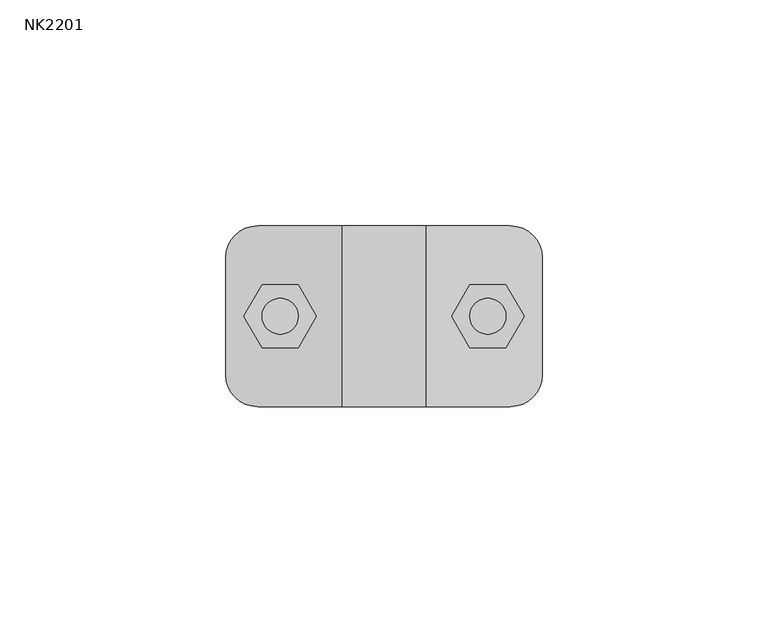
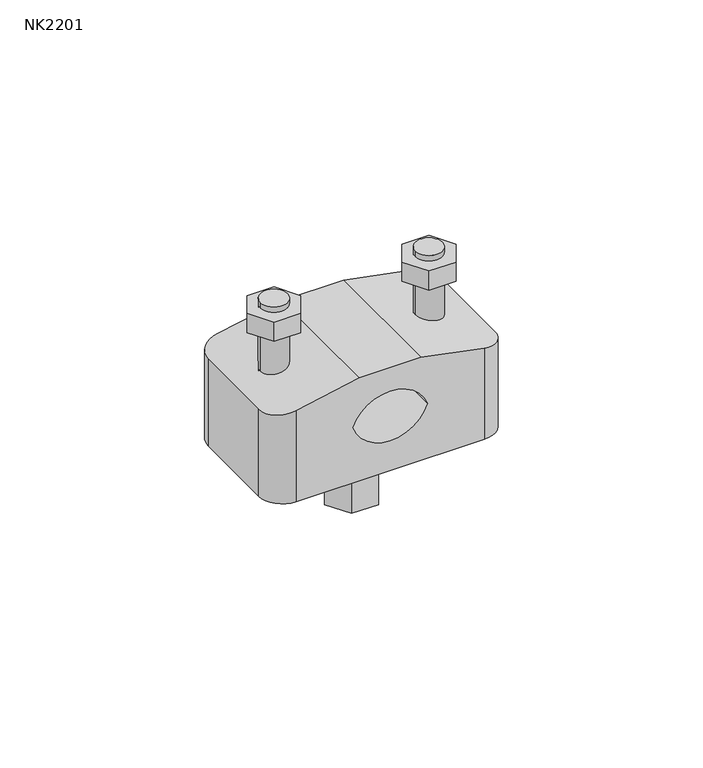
"""IFC4 building model written with IfcOpenShell, lengths in millimetres: proxy geometry, КНС_ДержательУниверсальныйИзолированногоТокоотвода_DKC : NK2201."""

from ifc_helpers import new_model, si_unit, point, frame, frame_2d, origin, origin_with_axes, place, context, project, spatial, polyline, circle_curve, ellipse_curve, trimmed, segment, composite_curve, outline, extrude, source, transform, mapped, element, save
from ifc_brep_helpers import plane_surface, cylinder_surface, revolved_surface, advanced_brep


def nk2201_a44ecc95(model_context):
    return source(origin(), model_context, "Body", "SolidModel", [
        extrude(outline(polyline([(27.0, -6.9282032), (19.0, -6.9282032), (15.0, 0.0), (19.0, 6.9282032), (27.0, 6.9282032), (31.0, 0.0), (27.0, -6.9282032)])), frame((0.0, 0.0, 62.0), z_axis=(0.0, 0.0, 1.0), x_axis=(1.0, 0.0, 0.0)), (0.0, 0.0, 1.0), 6.0),
        extrude(outline(polyline([(-27.0, -6.9282032), (-31.0, 0.0), (-27.0, 6.9282032), (-19.0, 6.9282032), (-15.0, 0.0), (-19.0, -6.9282032), (-27.0, -6.9282032)])), frame((0.0, 0.0, 62.0), z_axis=(0.0, 0.0, 1.0), x_axis=(1.0, 0.0, 0.0)), (0.0, 0.0, 1.0), 6.0),
        extrude(outline(composite_curve([segment(trimmed(circle_curve(frame_2d((23.0, 0.0)), 4.0), [point((27.0, 0.0))], [point((19.0, 0.0))], False, "CARTESIAN"), True, "CONTINUOUS"), segment(trimmed(circle_curve(frame_2d((23.0, 0.0)), 4.0), [point((19.0, 0.0))], [point((27.0, 0.0))], False, "CARTESIAN"), True, "CONTINUOUS")], self_intersect=False)), frame((0.0, 0.0, 20.0), z_axis=(0.0, 0.0, 1.0), x_axis=(1.0, 0.0, 0.0)), (0.0, 0.0, 1.0), 50.0),
        extrude(outline(composite_curve([segment(trimmed(circle_curve(frame_2d((-23.0, 0.0)), 4.0), [point((-27.0, 0.0))], [point((-19.0, 0.0))], False, "CARTESIAN"), True, "CONTINUOUS"), segment(trimmed(circle_curve(frame_2d((-23.0, 0.0)), 4.0), [point((-19.0, 0.0))], [point((-27.0, 0.0))], False, "CARTESIAN"), True, "CONTINUOUS")], self_intersect=False)), frame((0.0, 0.0, 20.0), z_axis=(0.0, 0.0, 1.0), x_axis=(1.0, 0.0, 0.0)), (0.0, 0.0, 1.0), 50.0),
        advanced_brep(
        [(-35.0, -13.0, 20.0), (-35.0, 13.0, 20.0), (-28.0, 20.0, 20.0), (28.0, 20.0, 20.0), (35.0, 13.0, 20.0), (35.0, -13.0, 20.0), (28.0, -20.0, 20.0), (-28.0, -20.0, 20.0), (-28.0, -20.0, 48.5747314), (-35.0, -13.0, 47.2140692), (28.0, -20.0, 48.5747314), (9.1874999, -20.0, 52.231511), (-9.1874999, -20.0, 52.231511), (-11.0516901, -20.0, 37.2859148), (11.0516901, -20.0, 37.2859148), (35.0, -13.0, 47.2140692), (35.0, 13.0, 47.2140692), (28.0, 20.0, 48.5747314), (-28.0, 20.0, 48.5747314), (-9.1874999, 20.0, 52.231511), (9.1874999, 20.0, 52.231511), (11.0516901, 20.0, 37.2859148), (-11.0516901, 20.0, 37.2859148), (-35.0, 13.0, 47.2140692)],
        [
            (0, 1),
            (1, 2, circle_curve(frame((-28.0, 13.0, 20.0), z_axis=(0.0, 0.0, -1.0), x_axis=(1.0, 0.0, 0.0)), 7.0)),
            (2, 3),
            (3, 4, circle_curve(frame((28.0, 13.0, 20.0), z_axis=(0.0, 0.0, -1.0), x_axis=(1.0, 0.0, 0.0)), 7.0)),
            (4, 5),
            (5, 6, circle_curve(frame((28.0, -13.0, 20.0), z_axis=(0.0, 0.0, -1.0), x_axis=(1.0, 0.0, 0.0)), 7.0)),
            (6, 7),
            (7, 0, circle_curve(frame((-28.0, -13.0, 20.0), z_axis=(0.0, 0.0, -1.0), x_axis=(1.0, 0.0, 0.0)), 7.0)),
            (7, 8),
            (8, 9, ellipse_curve(frame((-28.0, -13.0, 48.5747314), z_axis=(0.19080899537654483, 0.0, -0.981627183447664), x_axis=(0.9816271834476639, 0.0, 0.19080899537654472)), 7.1310169, 7.0)),
            (9, 0),
            (6, 10),
            (10, 11),
            (11, 12),
            (12, 8),
            (13, 14, circle_curve(frame((0.0, -20.0, 32.9508708), z_axis=(0.0, 1.0, 0.0), x_axis=(1.0, 0.0, 0.0)), 11.8714978)),
            (14, 13, circle_curve(frame((0.0, -20.0, 41.0381384), z_axis=(0.0, 1.0, 0.0), x_axis=(1.0, 0.0, 0.0)), 11.6712911)),
            (5, 15),
            (15, 10, ellipse_curve(frame((28.0, -13.0, 48.5747314), z_axis=(-0.19080899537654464, 0.0, -0.981627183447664), x_axis=(-0.9816271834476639, 0.0, 0.19080899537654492)), 7.1310169, 7.0)),
            (4, 16),
            (16, 15),
            (3, 17),
            (17, 16, ellipse_curve(frame((28.0, 13.0, 48.5747314), z_axis=(-0.19080899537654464, 0.0, -0.981627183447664), x_axis=(-0.9816271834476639, 0.0, 0.19080899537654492)), 7.1310169, 7.0)),
            (2, 18),
            (18, 19),
            (19, 20),
            (20, 17),
            (21, 22, circle_curve(frame((0.0, 20.0, 32.9508708), z_axis=(0.0, -1.0, 0.0), x_axis=(1.0, 0.0, 0.0)), 11.8714978)),
            (22, 21, circle_curve(frame((0.0, 20.0, 41.0381384), z_axis=(0.0, -1.0, 0.0), x_axis=(1.0, 0.0, 0.0)), 11.6712911)),
            (1, 23),
            (23, 18, ellipse_curve(frame((-28.0, 13.0, 48.5747314), z_axis=(0.19080899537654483, 0.0, -0.981627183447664), x_axis=(0.9816271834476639, 0.0, 0.19080899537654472)), 7.1310169, 7.0)),
            (9, 23),
            (11, 20),
            (19, 12),
            (13, 22),
            (21, 14),
        ],
        [
            plane_surface(frame((-21.0, -13.0, 20.0), z_axis=(0.0, 0.0, -1.0), x_axis=(0.0, -1.0, 0.0))),
            cylinder_surface(frame((-28.0, -13.0, 20.0), z_axis=(0.0, 0.0, 1.0), x_axis=(1.0, 0.0, 0.0)), 7.0),
            plane_surface(frame((-28.0, -20.0, 55.0), z_axis=(0.0, -1.0, 0.0), x_axis=(0.0, 0.0, -1.0))),
            cylinder_surface(frame((28.0, -13.0, 20.0), z_axis=(0.0, 0.0, 1.0), x_axis=(1.0, 0.0, 0.0)), 7.0),
            plane_surface(frame((35.0, -13.0, 55.0), z_axis=(1.0, 0.0, 0.0), x_axis=(0.0, 0.0, -1.0))),
            cylinder_surface(frame((28.0, 13.0, 20.0), z_axis=(0.0, 0.0, 1.0), x_axis=(1.0, 0.0, 0.0)), 7.0),
            plane_surface(frame((28.0, 20.0, 55.0), z_axis=(0.0, 1.0, 0.0), x_axis=(0.0, 0.0, -1.0))),
            cylinder_surface(frame((-28.0, 13.0, 20.0), z_axis=(0.0, 0.0, 1.0), x_axis=(1.0, 0.0, 0.0)), 7.0),
            plane_surface(frame((-35.0, 13.0, 55.0), z_axis=(-1.0, 0.0, 0.0), x_axis=(0.0, 0.0, -1.0))),
            plane_surface(frame((-9.1874999, -20.0, 52.231511), z_axis=(0.0, 0.0, 1.0), x_axis=(0.0, 1.0, 0.0))),
            plane_surface(frame((9.1874999, -20.0, 52.231511), z_axis=(0.19080899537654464, 0.0, 0.981627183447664), x_axis=(0.0, 1.0, 0.0))),
            plane_surface(frame((-35.0, -20.0, 47.2140692), z_axis=(-0.19080899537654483, 0.0, 0.981627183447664), x_axis=(0.0, 1.0, 0.0))),
            revolved_surface(polyline([(11.8714978, -20.0, 32.9508708), (11.8714978, 20.0, 32.9508708)]), (0.0, 20.0, 32.9508708), (0.0, -1.0, 0.0)),
            revolved_surface(polyline([(11.6712911, -20.0, 41.0381384), (11.6712911, 20.0, 41.0381384)]), (0.0, 20.0, 41.0381384), (0.0, -1.0, 0.0)),
        ],
        [
            (0, [[1, 2, 3, 4, 5, 6, 7, 8]]),
            (1, [[-8, 9, 10, 11]]),
            (2, [[-7, 12, 13, 14, 15, -9], [16, 17]]),
            (3, [[-6, 18, 19, -12]]),
            (4, [[-5, 20, 21, -18]]),
            (5, [[-4, 22, 23, -20]]),
            (6, [[-3, 24, 25, 26, 27, -22], [28, 29]]),
            (7, [[-2, 30, 31, -24]]),
            (8, [[-1, -11, 32, -30]]),
            (9, [[33, -26, 34, -14]]),
            (10, [[-33, -13, -19, -21, -23, -27]]),
            (11, [[-34, -25, -31, -32, -10, -15]]),
            (12, [[35, -28, 36, -16]]),
            (13, [[-35, -17, -36, -29]]),
        ],
    ),
        extrude(outline(polyline([(4.0, 6.9282032), (8.0, 0.0), (4.0, -6.9282032), (-4.0, -6.9282032), (-8.0, 0.0), (-4.0, 6.9282032), (4.0, 6.9282032)])), origin_with_axes(), (0.0, 0.0, 1.0), 20.0),
    ])


if __name__ == "__main__":
    model = new_model("IFC4")
    model_context = context("Model", 3, world=origin())
    ifc_project = project(units=[si_unit("LENGTHUNIT", "METRE", prefix="MILLI")], contexts=[model_context])
    site = spatial("IfcSite", under=ifc_project)
    building = spatial("IfcBuilding", under=site)
    placement = place(None, origin())
    nk2201_shape = nk2201_a44ecc95(model_context)
    element("IfcBuildingElementProxy", 1, Name="КНС_ДержательУниверсальныйИзолированногоТокоотвода_DKC : NK2201", ObjectType="КНС_ДержательУниверсальныйИзолированногоТокоотвода_DKC : NK2201", at=placement, inside=building, context=model_context, shape_type="MappedRepresentation", body=[
        mapped(nk2201_shape, transform((0.0, 0.0, 0.0), x_axis=(1.0, 0.0, 0.0), y_axis=(0.0, 1.0, 0.0), z_axis=(0.0, 0.0, 1.0))),
    ])
    save(model, "model.ifc")
